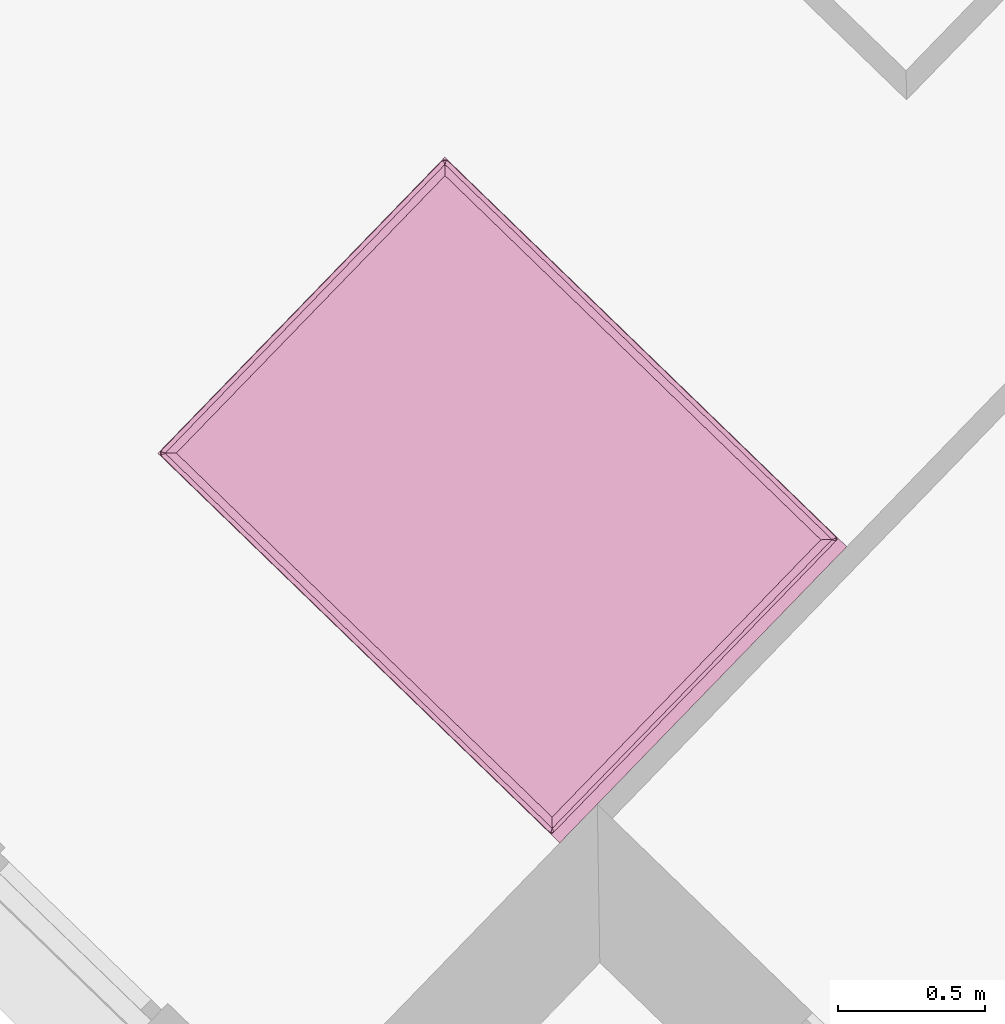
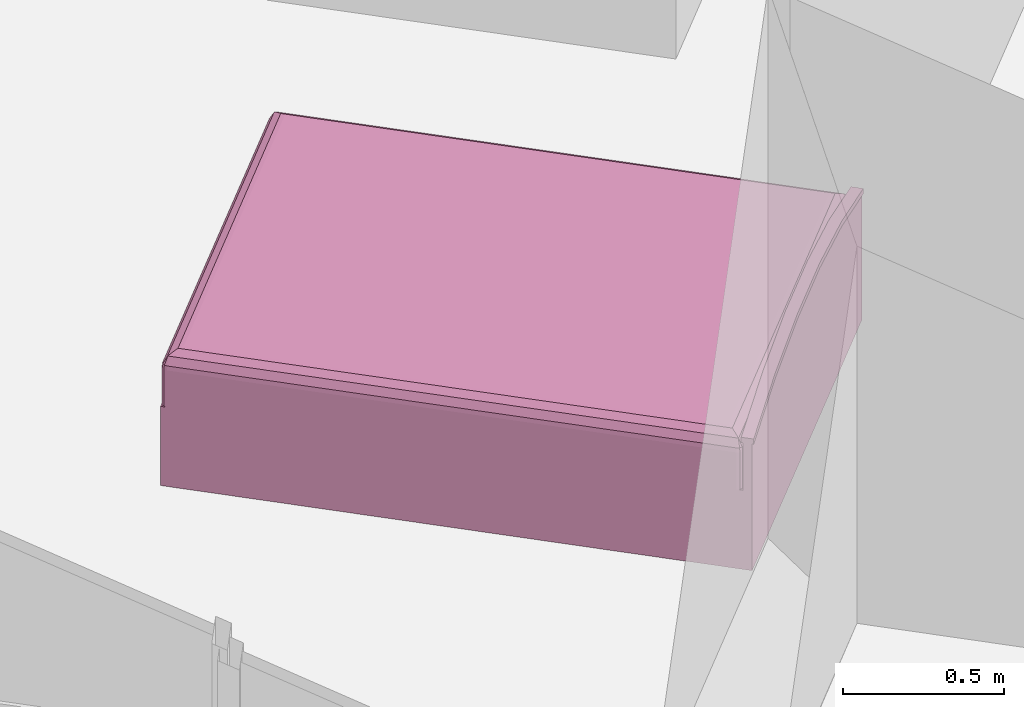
# One storey, part 149 of 195: 1 furnishing.
"""IFC2X3 building model written with IfcOpenShell, lengths in metres."""

from ifc_helpers import new_model, entity, si_unit, converted_unit, derived_unit, money_unit, direction, frame, origin_with_axes, place, context, subcontext, project, spatial, faceted_brep, source, transform, mapped, type_object, element, save


model = new_model("IFC2X3")

# Units and contexts
model_context = context("Model", 3, precision=1e-05, world=origin_with_axes(), true_north=direction((0.0, 1.0)))
body_context = subcontext(model_context, "Body", "Model", "MODEL_VIEW")
ifc_project = project(units=[si_unit("LENGTHUNIT", "METRE"), si_unit("AREAUNIT", "SQUARE_METRE"), si_unit("VOLUMEUNIT", "CUBIC_METRE"), converted_unit("PLANEANGLEUNIT", "DEGREE", entity("IfcPlaneAngleMeasure", 0.0174532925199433), si_unit("PLANEANGLEUNIT", "RADIAN"), dimensions=[0, 0, 0, 0, 0, 0, 0]), money_unit("CHF"), converted_unit("TIMEUNIT", "Year", entity("IfcTimeMeasure", 31557600.0), si_unit("TIMEUNIT", "SECOND"), dimensions=[0, 0, 1, 0, 0, 0, 0]), si_unit("MASSUNIT", "GRAM", prefix="KILO"), si_unit("THERMODYNAMICTEMPERATUREUNIT", "DEGREE_CELSIUS"), si_unit("LUMINOUSINTENSITYUNIT", "LUMEN"), si_unit("ENERGYUNIT", "JOULE", prefix="MEGA"), derived_unit("THERMALCONDUCTANCEUNIT", [(si_unit("POWERUNIT", "WATT"), 1), (si_unit("LENGTHUNIT", "METRE"), -1), (si_unit("THERMODYNAMICTEMPERATUREUNIT", "KELVIN"), -1)]), derived_unit("SPECIFICHEATCAPACITYUNIT", [(si_unit("ENERGYUNIT", "JOULE"), 1), (si_unit("MASSUNIT", "GRAM", prefix="KILO"), -1), (si_unit("THERMODYNAMICTEMPERATUREUNIT", "KELVIN"), -1)]), derived_unit("MASSDENSITYUNIT", [(si_unit("MASSUNIT", "GRAM", prefix="KILO"), 1), (si_unit("VOLUMEUNIT", "CUBIC_METRE"), -1)])], contexts=[model_context])

# Site, building, storey
site_placement = place(None, origin_with_axes())
site = spatial("IfcSite", under=ifc_project, at=site_placement, Name="Site", CompositionType="ELEMENT")
building_placement = place(site_placement, origin_with_axes())
building = spatial("IfcBuilding", under=site, at=building_placement, Name="Bâtiment", CompositionType="ELEMENT")
storey_placement = place(building_placement, origin_with_axes())
storey = spatial("IfcBuildingStorey", under=building, at=storey_placement, Name="rdc", CompositionType="ELEMENT", Elevation=0.0)

# Furnishing
furnishing_element_type = type_object("IfcFurnishingElementType", Name="Lit double 01")
shared_shape = source(origin_with_axes(), body_context, "Body", "Brep", [
    faceted_brep([(0.0, 1.895, 0.0), (0.0, 1.865, 0.0), (-1.4, 1.865, 0.0), (-1.4, 1.895, 0.0), (0.0, 1.895, 0.48), (0.0, 1.865, 0.48), (-0.276362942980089, 1.865, 0.5438448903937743), (-0.558179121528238, 1.865, 0.5759741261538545), (-0.8418208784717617, 1.865, 0.5759741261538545), (-1.123637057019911, 1.865, 0.5438448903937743), (-1.4, 1.865, 0.48), (-1.4, 1.865, 0.4799), (-1.4, 1.895, 0.4799), (-1.4, 1.895, 0.48), (-1.123637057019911, 1.895, 0.5438448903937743), (-0.8418208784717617, 1.895, 0.5759741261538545), (-0.558179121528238, 1.895, 0.5759741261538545), (-0.276362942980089, 1.895, 0.5438448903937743)], [[[0, 1, 2, 3]], [[4, 5, 1, 0]], [[1, 5, 6, 7, 8, 9, 10, 11, 2]], [[3, 2, 11, 12]], [[0, 3, 12, 13, 14, 15, 16, 17, 4]], [[17, 6, 5, 4]], [[16, 7, 6, 17]], [[15, 8, 7, 16]], [[14, 9, 8, 15]], [[13, 10, 9, 14]], [[12, 11, 10, 13]]]),
    faceted_brep([(-1.4, 1.9, 0.48), (-1.4, 1.86, 0.48), (-1.399999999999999, 1.86, 0.4999999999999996), (-1.399999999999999, 1.9, 0.4999999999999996), (-1.123637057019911, 1.9, 0.5438448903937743), (-1.123637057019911, 1.86, 0.5438448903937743), (-0.8418208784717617, 1.86, 0.5759741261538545), (-0.558179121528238, 1.86, 0.5759741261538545), (-0.276362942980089, 1.86, 0.5438448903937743), (0.0, 1.86, 0.48), (0.0, 1.86, 0.4999), (0.0, 1.86, 0.5), (-0.276362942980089, 1.86, 0.5638448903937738), (-0.5581791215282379, 1.86, 0.5959741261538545), (-0.8418208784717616, 1.86, 0.5959741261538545), (-1.123637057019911, 1.86, 0.5638448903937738), (-1.123637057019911, 1.9, 0.5638448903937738), (-0.8418208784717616, 1.9, 0.5959741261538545), (-0.5581791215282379, 1.9, 0.5959741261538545), (-0.276362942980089, 1.9, 0.5638448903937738), (0.0, 1.9, 0.5), (0.0, 1.9, 0.4999), (0.0, 1.9, 0.48), (-0.276362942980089, 1.9, 0.5438448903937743), (-0.558179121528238, 1.9, 0.5759741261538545), (-0.8418208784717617, 1.9, 0.5759741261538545)], [[[0, 1, 2, 3]], [[4, 5, 1, 0]], [[1, 5, 6, 7, 8, 9, 10, 11, 12, 13, 14, 15, 2]], [[3, 2, 15, 16]], [[0, 3, 16, 17, 18, 19, 20, 21, 22, 23, 24, 25, 4]], [[25, 6, 5, 4]], [[24, 7, 6, 25]], [[23, 8, 7, 24]], [[22, 9, 8, 23]], [[21, 10, 9, 22]], [[20, 11, 10, 21]], [[19, 12, 11, 20]], [[18, 13, 12, 19]], [[17, 14, 13, 18]], [[16, 15, 14, 17]]]),
    faceted_brep([(-1.4, 0.0, 0.0), (-1.4, 1.865, 0.0), (0.0, 1.865, 0.0), (0.0, 0.0, 0.0), (-1.4, 0.0, 0.3), (-1.4, 1.865, 0.3), (0.0, 1.865, 0.3), (0.0, 0.0, 0.3)], [[[0, 1, 2, 3]], [[0, 4, 5, 1]], [[1, 5, 6, 2]], [[2, 6, 7, 3]], [[3, 7, 4, 0]], [[7, 6, 5, 4]]]),
    faceted_brep([(0.0, 0.02, 0.43), (-0.002679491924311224, 0.01, 0.43), (-0.009999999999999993, 0.002679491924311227, 0.43), (-0.01999999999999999, 0.0, 0.43), (-1.38, 0.0, 0.43), (-1.39, 0.002679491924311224, 0.43), (-1.397320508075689, 0.009999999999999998, 0.43), (-1.4, 0.02, 0.43), (-1.4, 1.845, 0.43), (-1.397320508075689, 1.855, 0.43), (-1.39, 1.862320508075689, 0.43), (-1.38, 1.865, 0.43), (-0.02, 1.865, 0.43), (-0.009999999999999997, 1.862320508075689, 0.43), (-0.002679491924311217, 1.855, 0.43), (0.0, 1.845, 0.43), (3.895163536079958e-10, 0.02000000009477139, 0.44), (-0.002679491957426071, 0.0100000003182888, 0.44), (-0.0100000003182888, 0.002679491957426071, 0.44), (-0.02000000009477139, -3.895163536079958e-10, 0.44), (-1.380000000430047, -3.895163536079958e-10, 0.44), (-1.39000000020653, 0.002679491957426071, 0.44), (-1.39732050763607, 0.0100000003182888, 0.44), (-1.399999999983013, 0.02000000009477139, 0.44), (-1.399999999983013, 1.845000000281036, 0.44), (-1.39732050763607, 1.855000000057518, 0.44), (-1.39000000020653, 1.862320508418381, 0.44), (-1.380000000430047, 1.864999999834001, 0.44), (-0.02000000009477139, 1.864999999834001, 0.44), (-0.0100000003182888, 1.862320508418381, 0.44), (-0.002679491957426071, 1.855000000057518, 0.44), (3.895163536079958e-10, 1.845000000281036, 0.44), (-0.002044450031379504, 0.02026915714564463, 0.4555291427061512), (-0.004512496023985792, 0.01105828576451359, 0.4555291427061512), (-0.01105828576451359, 0.004512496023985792, 0.4555291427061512), (-0.02026915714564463, 0.002044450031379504, 0.4555291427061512), (-1.379730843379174, 0.002044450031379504, 0.4555291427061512), (-1.388941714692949, 0.004512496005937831, 0.4555291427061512), (-1.395487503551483, 0.01105828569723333, 0.4555291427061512), (-1.397955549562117, 0.02026915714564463, 0.4555291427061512), (-1.397955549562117, 1.844730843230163, 0.4555291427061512), (-1.395487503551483, 1.853941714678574, 0.4555291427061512), (-1.388941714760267, 1.860487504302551, 0.4555291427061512), (-1.379730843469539, 1.862955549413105, 0.4555291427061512), (-0.02026915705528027, 1.862955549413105, 0.4555291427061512), (-0.01105828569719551, 1.860487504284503, 0.4555291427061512), (-0.004512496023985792, 1.853941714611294, 0.4555291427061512), (-0.002044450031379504, 1.844730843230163, 0.4555291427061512), (-0.01757359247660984, 0.02231360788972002, 0.4824264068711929), (-0.01843554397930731, 0.01909676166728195, 0.4824264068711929), (-0.01909676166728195, 0.01843554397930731, 0.4824264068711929), (-0.02231360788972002, 0.01757359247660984, 0.4824264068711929), (-1.377686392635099, 0.01757359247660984, 0.4824264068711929), (-1.380903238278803, 0.01843554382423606, 0.4824264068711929), (-1.381564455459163, 0.01909676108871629, 0.4824264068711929), (-1.382426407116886, 0.02231360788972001, 0.4824264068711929), (-1.382426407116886, 1.842686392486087, 0.4824264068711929), (-1.381564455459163, 1.845903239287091, 0.4824264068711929), (-1.380903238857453, 1.846564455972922, 0.4824264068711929), (-1.377686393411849, 1.847426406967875, 0.4824264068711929), (-0.02231360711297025, 1.847426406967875, 0.4824264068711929), (-0.01909676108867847, 1.846564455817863, 0.4824264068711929), (-0.01843554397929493, 1.845903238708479, 0.4824264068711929), (-0.01757359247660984, 1.842686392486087, 0.4824264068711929), (-0.02303225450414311, 0.02303225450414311, 0.4855779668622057), (-0.02000000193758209, 0.02000000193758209, 0.4834338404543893), (-0.04447085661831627, 0.04447085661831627, 0.4979555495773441), (-1.35552914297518, 0.04447085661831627, 0.4979555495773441), (-1.376967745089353, 0.02303225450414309, 0.4855779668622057), (-1.379999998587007, 0.02000000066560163, 0.4834338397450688), (-1.35552914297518, 1.820529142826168, 0.4979555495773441), (-1.376967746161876, 1.841967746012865, 0.4855779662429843), (-1.380000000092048, 1.845000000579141, 0.4834338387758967), (-0.04447085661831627, 1.820529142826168, 0.4979555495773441), (-0.02303225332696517, 1.841967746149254, 0.48557796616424), (-0.02000000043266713, 1.844999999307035, 0.4834338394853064), (-0.05999999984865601, 0.05999999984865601, 0.5000000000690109), (-1.33999999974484, 0.05999999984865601, 0.5000000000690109), (-1.33999999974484, 1.804999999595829, 0.5000000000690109), (-0.05999999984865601, 1.804999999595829, 0.5000000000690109)], [[[0, 1, 2, 3, 4, 5, 6, 7, 8, 9, 10, 11, 12, 13, 14, 15]], [[0, 16, 17, 1]], [[1, 17, 18, 2]], [[2, 18, 19, 3]], [[3, 19, 20, 4]], [[4, 20, 21, 5]], [[5, 21, 22, 6]], [[6, 22, 23, 7]], [[7, 23, 24, 8]], [[8, 24, 25, 9]], [[9, 25, 26, 10]], [[10, 26, 27, 11]], [[11, 27, 28, 12]], [[12, 28, 29, 13]], [[13, 29, 30, 14]], [[14, 30, 31, 15]], [[15, 31, 16, 0]], [[16, 32, 33, 17]], [[17, 33, 34, 18]], [[18, 34, 35, 19]], [[19, 35, 36, 20]], [[20, 36, 37, 21]], [[21, 37, 38, 22]], [[22, 38, 39, 23]], [[23, 39, 40, 24]], [[24, 40, 41, 25]], [[25, 41, 42, 26]], [[26, 42, 43, 27]], [[27, 43, 44, 28]], [[28, 44, 45, 29]], [[29, 45, 46, 30]], [[30, 46, 47, 31]], [[31, 47, 32, 16]], [[32, 48, 49, 33]], [[33, 49, 50, 34]], [[34, 50, 51, 35]], [[35, 51, 52, 36]], [[36, 52, 53, 37]], [[37, 53, 54, 38]], [[38, 54, 55, 39]], [[39, 55, 56, 40]], [[40, 56, 57, 41]], [[41, 57, 58, 42]], [[42, 58, 59, 43]], [[43, 59, 60, 44]], [[44, 60, 61, 45]], [[45, 61, 62, 46]], [[46, 62, 63, 47]], [[47, 63, 48, 32]], [[48, 64, 65, 49]], [[49, 65, 50]], [[50, 65, 64, 51]], [[51, 64, 66, 67, 68, 52]], [[52, 68, 69, 53]], [[53, 69, 54]], [[54, 69, 68, 55]], [[55, 68, 67, 70, 71, 56]], [[56, 71, 72, 57]], [[57, 72, 58]], [[58, 72, 71, 59]], [[59, 71, 70, 73, 74, 60]], [[60, 74, 75, 61]], [[61, 75, 62]], [[62, 75, 74, 63]], [[63, 74, 73, 66, 64, 48]], [[66, 76, 77, 67]], [[67, 77, 78, 70]], [[70, 78, 79, 73]], [[73, 79, 76, 66]], [[78, 77, 76, 79]]]),
    faceted_brep([(-1.39000000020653, 0.002679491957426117, 0.2999999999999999), (-1.39, 0.002679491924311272, 0.3099999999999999), (-1.397320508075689, 0.01000000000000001, 0.3099999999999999), (-1.39732050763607, 0.01000000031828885, 0.2999999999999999), (-1.380000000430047, -3.895163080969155e-10, 0.2999999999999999), (-1.38, 0.0, 0.3099999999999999), (-1.4, 0.02000000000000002, 0.3099999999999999), (-0.02000000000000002, 0.0, 0.3099999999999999), (-0.01000000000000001, 0.002679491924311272, 0.3099999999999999), (-0.002679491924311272, 0.01000000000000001, 0.3099999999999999), (0.0, 0.02000000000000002, 0.3099999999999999), (0.0, 1.845, 0.3099999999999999), (-0.002679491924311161, 1.855, 0.3099999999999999), (-0.01000000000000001, 1.862320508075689, 0.3099999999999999), (-0.02000000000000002, 1.865, 0.3099999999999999), (-1.38, 1.865, 0.3099999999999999), (-1.39, 1.862320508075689, 0.3099999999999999), (-1.397320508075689, 1.855, 0.3099999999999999), (-1.4, 1.845, 0.3099999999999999), (-1.399999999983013, 0.02000000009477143, 0.2999999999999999), (-1.399999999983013, 1.845000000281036, 0.2999999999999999), (-1.39732050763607, 1.855000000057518, 0.2999999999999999), (-1.39000000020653, 1.862320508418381, 0.2999999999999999), (-1.380000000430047, 1.864999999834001, 0.2999999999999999), (-0.02000000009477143, 1.864999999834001, 0.2999999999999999), (-0.01000000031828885, 1.862320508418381, 0.2999999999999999), (-0.002679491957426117, 1.855000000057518, 0.2999999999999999), (3.895163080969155e-10, 1.845000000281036, 0.2999999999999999), (3.895163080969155e-10, 0.02000000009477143, 0.2999999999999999), (-0.002679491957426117, 0.01000000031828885, 0.2999999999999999), (-0.01000000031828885, 0.002679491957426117, 0.2999999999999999), (-0.02000000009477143, -3.895163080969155e-10, 0.2999999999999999)], [[[0, 1, 2, 3]], [[1, 0, 4, 5]], [[6, 2, 1, 5, 7, 8, 9, 10, 11, 12, 13, 14, 15, 16, 17, 18]], [[3, 2, 6, 19]], [[3, 19, 20, 21, 22, 23, 24, 25, 26, 27, 28, 29, 30, 31, 4, 0]], [[7, 5, 4, 31]], [[30, 8, 7, 31]], [[8, 30, 29, 9]], [[9, 29, 28, 10]], [[10, 28, 27, 11]], [[26, 12, 11, 27]], [[12, 26, 25, 13]], [[25, 24, 14, 13]], [[24, 23, 15, 14]], [[22, 16, 15, 23]], [[21, 17, 16, 22]], [[17, 21, 20, 18]], [[19, 6, 18, 20]]]),
    faceted_brep([(0.0, 0.02, 0.3099999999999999), (0.0, 0.02, 0.4299999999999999), (-0.002679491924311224, 0.01, 0.4299999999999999), (-0.002679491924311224, 0.01, 0.3099999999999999), (0.0, 1.845, 0.3099999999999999), (0.0, 1.845, 0.4299999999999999), (-0.002679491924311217, 1.855, 0.4299999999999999), (-0.009999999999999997, 1.862320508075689, 0.4299999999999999), (-0.02, 1.865, 0.4299999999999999), (-1.38, 1.865, 0.4299999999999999), (-1.39, 1.862320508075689, 0.4299999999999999), (-1.397320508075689, 1.855, 0.4299999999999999), (-1.4, 1.845, 0.4299999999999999), (-1.4, 0.02, 0.4299999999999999), (-1.397320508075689, 0.009999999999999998, 0.4299999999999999), (-1.39, 0.002679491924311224, 0.4299999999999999), (-1.38, 0.0, 0.4299999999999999), (-0.01999999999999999, 0.0, 0.4299999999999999), (-0.009999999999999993, 0.002679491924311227, 0.4299999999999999), (-0.009999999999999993, 0.002679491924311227, 0.3099999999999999), (-0.01999999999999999, 0.0, 0.3099999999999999), (-1.38, 0.0, 0.3099999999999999), (-1.39, 0.002679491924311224, 0.3099999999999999), (-1.397320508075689, 0.009999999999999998, 0.3099999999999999), (-1.4, 0.02, 0.3099999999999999), (-1.4, 1.845, 0.3099999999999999), (-1.397320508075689, 1.855, 0.3099999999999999), (-1.39, 1.862320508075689, 0.3099999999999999), (-1.38, 1.865, 0.3099999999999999), (-0.02, 1.865, 0.3099999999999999), (-0.009999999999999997, 1.862320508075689, 0.3099999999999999), (-0.002679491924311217, 1.855, 0.3099999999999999)], [[[0, 1, 2, 3]], [[4, 5, 1, 0]], [[1, 5, 6, 7, 8, 9, 10, 11, 12, 13, 14, 15, 16, 17, 18, 2]], [[3, 2, 18, 19]], [[0, 3, 19, 20, 21, 22, 23, 24, 25, 26, 27, 28, 29, 30, 31, 4]], [[31, 6, 5, 4]], [[30, 7, 6, 31]], [[29, 8, 7, 30]], [[28, 9, 8, 29]], [[27, 10, 9, 28]], [[26, 11, 10, 27]], [[25, 12, 11, 26]], [[24, 13, 12, 25]], [[23, 14, 13, 24]], [[22, 15, 14, 23]], [[21, 16, 15, 22]], [[20, 17, 16, 21]], [[19, 18, 17, 20]]]),
])
furnishing_placement = place(storey_placement, frame((9514.071949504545, -1062.782249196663, 57.7), z_axis=(0.0, 0.0, 1.0), x_axis=(-0.6958600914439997, -0.7181773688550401, 0.0)))
element("IfcFurnishingElement", 1, at=furnishing_placement, inside=storey, type_object=furnishing_element_type, Name="Obj.-002", context=body_context, shape_type="MappedRepresentation", body=[
    mapped(shared_shape, transform((0.0, 0.0, 0.0))),
])

save(model, "model.ifc")
